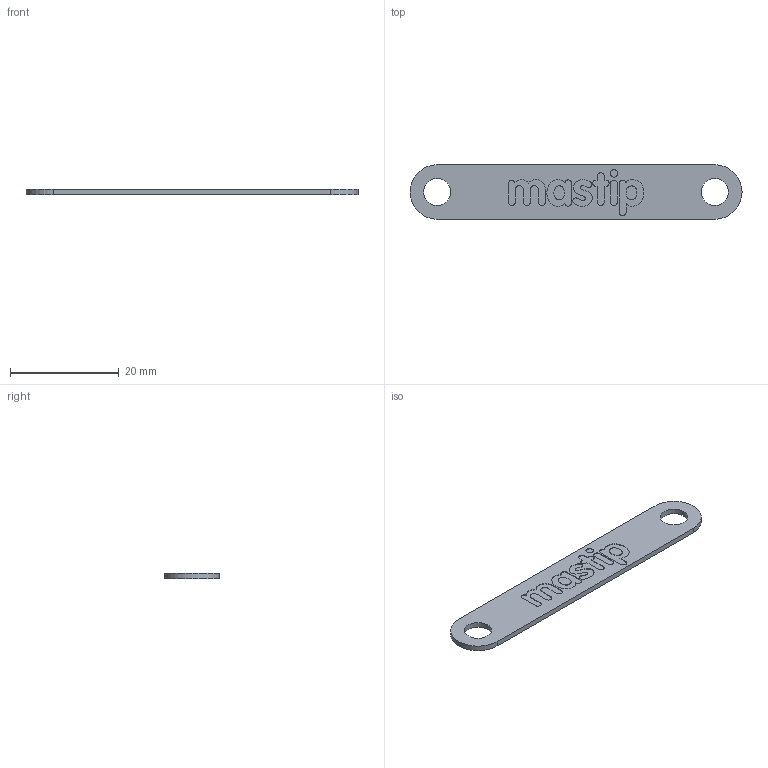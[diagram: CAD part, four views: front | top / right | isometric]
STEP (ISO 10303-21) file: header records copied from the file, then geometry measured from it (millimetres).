
FILE_DESCRIPTION(/* description */ (''),/* implementation_level */ '2;1');
FILE_NAME(/* name */ '51-001-001_WireClamp-W10xA51',/* time_stamp */ '2010-05-25T12:44:49+12:00',/* author */ (''),/* organization */ (''),/* preprocessor_version */ 'ST-DEVELOPER v9',/* originating_system */ 'UGS - NX 4.0',/* authorisation */ '');
FILE_SCHEMA (('CONFIG_CONTROL_DESIGN'));
Length unit declared in the file: millimetre
Products named in the file (1): Matt4220y864
Bounding box: 61 x 10 x 1 mm (x, y, z)
Volume: 541.3 mm3; surface area: 1277.3 mm2
Topology: 1 solids, 1 shells, 97 faces, 259 edges, 173 vertices
Faces by surface type: cylinder 65, plane 32
Full cylindrical faces by diameter (mm): 1.407 x1, 5 x2
Entity records: 3161 total; most frequent: DIRECTION 581, CARTESIAN_POINT 525, ORIENTED_EDGE 510, EDGE_CURVE 255, AXIS2_PLACEMENT_3D 228, VERTEX_POINT 172, CIRCLE 130, LINE 125
